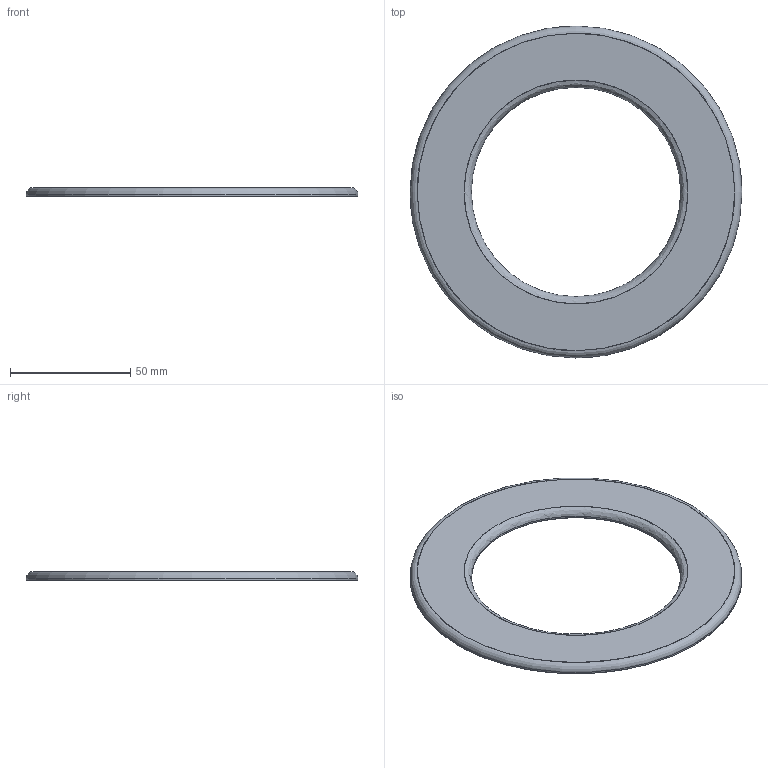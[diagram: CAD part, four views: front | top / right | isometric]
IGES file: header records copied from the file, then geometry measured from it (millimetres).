
Start section: --------------------------------------------------------------------- IGES file generated by CADlook_v12.0.  Visit http://www.cadlook.com for more information on CADlook translators and viewers. ---------------------------------------------------------------------
Global section: file name: D:\File_clienti\Brasile\Fischer\cap-est-tri-01-a1.igs; native system: Cimatron E 9.0; preprocessor: CADlook_v12.0; author: aquintaba; organization: None; date: 20100422.125339; units: millimetre
Bounding box: 138 x 138 x 3.7 mm (x, y, z)
Surface area: 20437 mm2 (no closed solid volume)
Topology: 0 solids, 0 shells, 10 faces, 66 edges, 64 vertices
Faces by surface type: revolution 6, bspline 4
